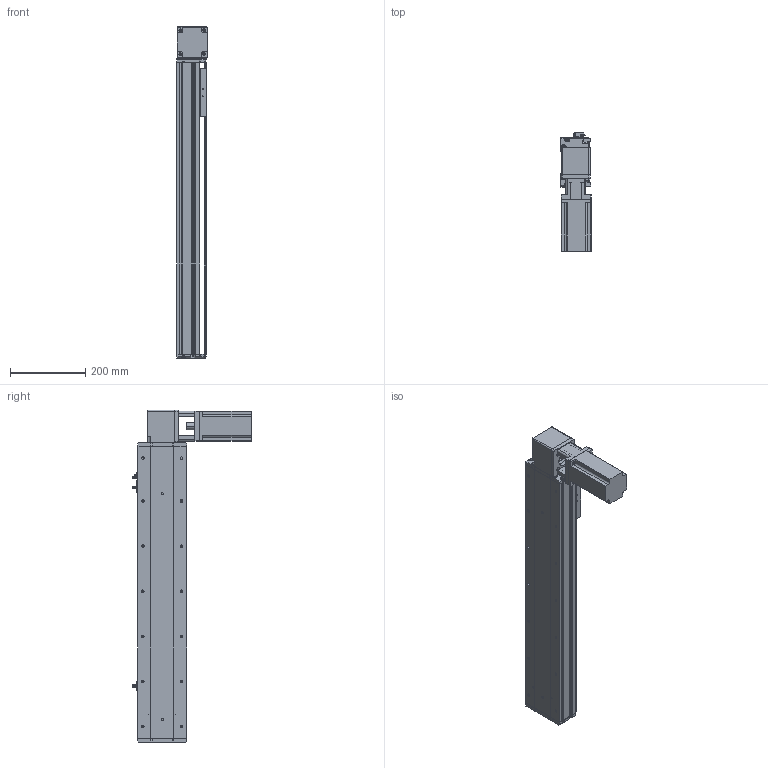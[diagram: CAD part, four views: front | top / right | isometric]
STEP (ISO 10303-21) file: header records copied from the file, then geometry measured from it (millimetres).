
FILE_DESCRIPTION (( 'STEP AP214' ), '1' );
FILE_NAME ('KSD130B-S550-MRT-CM.STEP', '2019-11-16T02:59:57', ( '微软用户' ), ( '微软中国' ), 'SwSTEP 2.0', 'SolidWorks 2014', '' );
FILE_SCHEMA (( 'AUTOMOTIVE_DESIGN' ));
Length unit declared in the file: millimetre
Products named in the file (12): 台达ECMA－C20807AS伺服电机; 130宽马达安装板1-带电机座750W（1）; 覜茼え100遵圉猾敕; U倰嫖萇EEㄜSX672; 130宽安装板同步带带电机座750W; 130宽盖板半封闭同步带-550行程; 130宽马达安装板同步带左-改; 130宽马达安装板同步带半封闭; 130宽同步带安装座半封闭; 130宽端盖同步带半封闭; 130宽底板半封闭同步带-550行程; KSD130B-S550-MRT-CM
Assembly tree (13 placements, depth 2):
  KSD130B-S550-MRT-CM
    130宽底板半封闭同步带-550行程
    130宽端盖同步带半封闭
    130宽同步带安装座半封闭
    130宽马达安装板同步带半封闭
    130宽马达安装板同步带左-改
    130宽盖板半封闭同步带-550行程
    130宽安装板同步带带电机座750W
    U倰嫖萇EEㄜSX672  x3
    覜茼え100遵圉猾敕
    130宽马达安装板1-带电机座750W（1）
    台达ECMA－C20807AS伺服电机
Bounding box: 81 x 316 x 883 mm (x, y, z)
Volume: 3749325 mm3; surface area: 940463.4 mm2
Topology: 14 solids, 14 shells, 1417 faces, 3992 edges, 2561 vertices
Faces by surface type: cylinder 671, plane 593, cone 153
Entity records: 45507 total; most frequent: CARTESIAN_POINT 8203, DIRECTION 6974, ORIENTED_EDGE 6676, EDGE_CURVE 3338, AXIS2_PLACEMENT_3D 2544, VERTEX_POINT 2185, VECTOR 1886, LINE 1886
